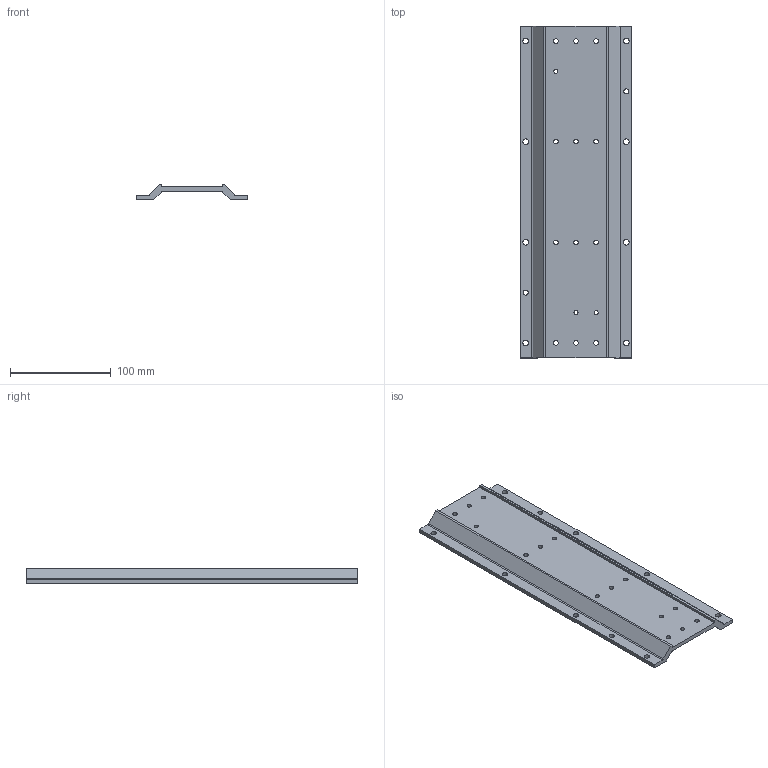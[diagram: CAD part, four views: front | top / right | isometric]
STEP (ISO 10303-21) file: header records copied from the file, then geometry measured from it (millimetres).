
FILE_DESCRIPTION(('FreeCAD Model'),'2;1');
FILE_NAME('C:/Users/Patrik/Desktop/FreeCAD - Pomocný/LA-H2_3D.step', '2019-08-31T16:42:56',('Author'),(''), 'Open CASCADE STEP processor 7.3','FreeCAD','Unknown');
FILE_SCHEMA(('AUTOMOTIVE_DESIGN { 1 0 10303 214 1 1 1 1 }'));
Length unit declared in the file: millimetre
Products named in the file (1): Pocket001
Bounding box: 110 x 330 x 15 mm (x, y, z)
Volume: 186597.8 mm3; surface area: 83809.2 mm2
Topology: 1 solids, 1 shells, 47 faces, 135 edges, 90 vertices
Faces by surface type: cylinder 29, plane 18
Full cylindrical faces by diameter (mm): 4 x3, 4.5 x12, 5 x2, 5.5 x8
Entity records: 3467 total; most frequent: CARTESIAN_POINT 591, DIRECTION 551, LINE 289, VECTOR 289, ORIENTED_EDGE 270, PCURVE 270, DEFINITIONAL_REPRESENTATION 270, EDGE_CURVE 135
